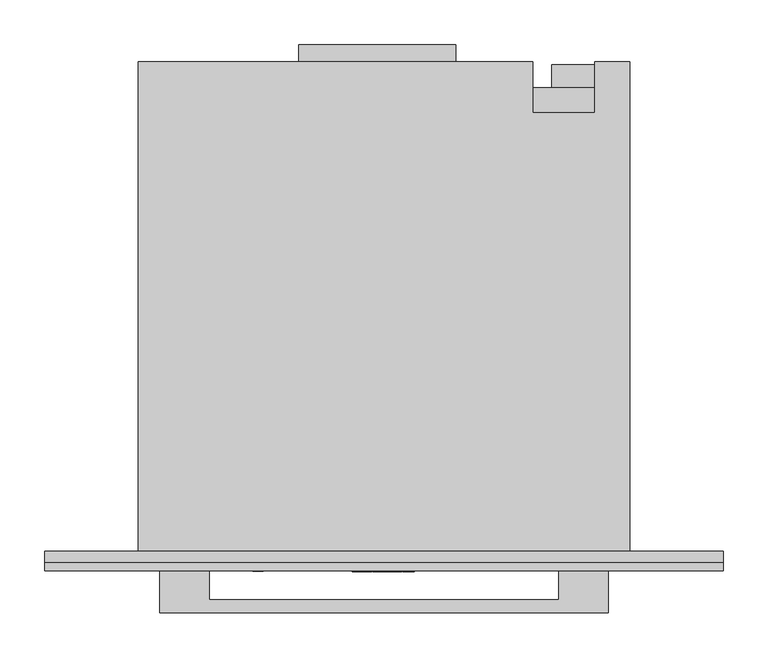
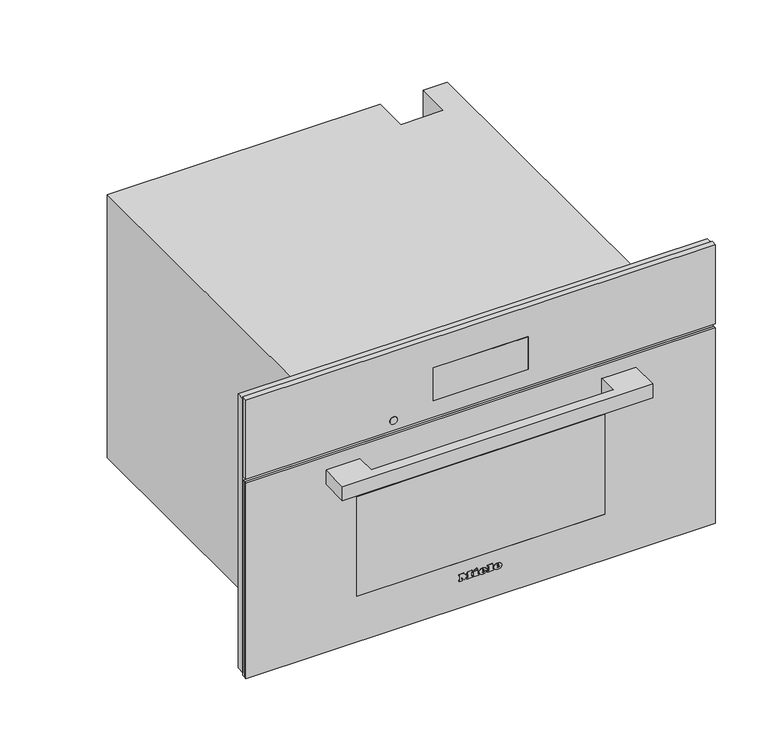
"""IFC4 building model written with IfcOpenShell, lengths in millimetres: proxy geometry, 11876190_USA_DGC7870_OBSW : 23787022_USA_11876190_DGC7870_OBSW."""

from ifc_helpers import new_model, si_unit, point, frame, frame_2d, origin, place, context, project, spatial, polyline, circle_curve, ellipse_curve, trimmed, segment, composite_curve, outline, extrude, faceted_brep, source, transform, mapped, element, save
from ifc_brep_helpers import plane_surface, cylinder_surface, revolved_surface, extruded_surface, advanced_brep


def specialty_equipment_27de7004(model_context):
    return source(origin(), model_context, "Body", "SolidModel", [
        faceted_brep([(378.5, -13.0, 476.0), (-378.5, -13.0, 476.0), (-378.5, -13.0, 9.0), (-272.5, -13.0, 9.0), (-272.5, -13.0, 344.0), (272.5, -13.0, 344.0), (272.5, -13.0, 9.0), (378.5, -13.0, 9.0), (378.5, 0.0, 476.0), (378.5, 0.0, 9.0), (-378.5, 0.0, 9.0), (-378.5, 0.0, 476.0), (231.0, 0.0, 58.0), (231.0, 0.0, 286.0), (-231.0, 0.0, 286.0), (-231.0, 0.0, 58.0), (272.5, -5.0, 9.0), (-272.5, -5.0, 9.0), (-272.5, -5.0, 344.0), (272.5, -5.0, 344.0), (231.0, -5.0, 286.0), (231.0, -5.0, 58.0), (-231.0, -5.0, 58.0), (-231.0, -5.0, 286.0)], [[[0, 1, 2, 3, 4, 5, 6, 7]], [[8, 9, 10, 11], [12, 13, 14, 15]], [[1, 0, 8, 11]], [[2, 1, 11, 10]], [[10, 9, 7, 6, 16, 17, 3, 2]], [[0, 7, 9, 8]], [[18, 19, 5, 4]], [[18, 4, 3, 17]], [[5, 19, 16, 6]], [[19, 18, 17, 16], [20, 21, 22, 23]], [[20, 13, 12, 21]], [[21, 12, 15, 22]], [[22, 15, 14, 23]], [[13, 20, 23, 14]]]),
        extrude(outline(polyline([(-95.0, 565.0), (80.0, 565.0), (80.0, 546.0), (-95.0, 546.0), (-95.0, 565.0)])), frame((0.0, 0.0, 260.0), z_axis=(0.0, 0.0, 1.0), x_axis=(1.0, 0.0, 0.0)), (0.0, 0.0, 1.0), 1.0),
        extrude(outline(polyline([(224.8383288, 537.0), (231.1236409, 537.0), (231.1236409, 526.9492425), (229.8571792, 526.9492425), (229.8571792, 535.7409796), (224.8383288, 535.7409796), (224.8383288, 537.0)])), frame((0.0, 0.0, 132.0), z_axis=(0.0, 0.0, 1.0), x_axis=(1.0, 0.0, 0.0)), (0.0, 0.0, 1.0), 1.0),
        extrude(outline(polyline([(233.0, 537.0), (240.3797826, 537.0), (240.3797826, 526.9503529), (233.15422, 526.9503529), (233.15422, 528.220938), (239.1355215, 528.220938), (239.1355215, 531.1975645), (233.4863097, 531.1975645), (233.4863097, 532.449242), (239.1355215, 532.449242), (239.1355215, 535.7448633), (233.0, 535.7448633), (233.0, 537.0)])), frame((0.0, 0.0, 132.0), z_axis=(0.0, 0.0, 1.0), x_axis=(1.0, 0.0, 0.0)), (0.0, 0.0, 1.0), 1.0),
        extrude(outline(composite_curve([segment(trimmed(circle_curve(frame_2d((233.0, 532.0)), 7.5), [point((225.5, 532.0))], [point((240.5, 532.0))], False, "CARTESIAN"), True, "CONTINUOUS"), segment(trimmed(circle_curve(frame_2d((233.0, 532.0)), 7.5), [point((240.5, 532.0))], [point((225.5, 532.0))], False, "CARTESIAN"), True, "CONTINUOUS")], self_intersect=False)), frame((0.0, 0.0, 133.0), z_axis=(0.0, 0.0, 1.0), x_axis=(1.0, 0.0, 0.0)), (0.0, 0.0, 1.0), 30.0),
        extrude(outline(polyline([(266.0, 517.0), (187.0, 517.0), (187.0, 543.0), (266.0, 543.0), (266.0, 517.0)])), frame((0.0, 0.0, 163.0), z_axis=(0.0, 0.0, 1.0), x_axis=(1.0, 0.0, 0.0)), (0.0, 0.0, 1.0), 111.0),
        faceted_brep([(-274.0, 546.0, 0.0), (-274.0, 546.0, 448.0), (166.0, 546.0, 448.0), (166.0, 546.0, 0.0), (235.0, 546.0, 448.0), (274.0, 546.0, 448.0), (274.0, 546.0, 338.0), (235.0, 546.0, 338.0), (274.0, 0.0, 448.0), (-274.0, 0.0, 448.0), (-274.0, 0.0, 0.0), (274.0, 0.0, 0.0), (231.0, 0.0, 286.0), (231.0, 0.0, 58.0), (-231.0, 0.0, 58.0), (-231.0, 0.0, 286.0), (235.0, 489.0, 448.0), (166.0, 489.0, 448.0), (166.0, 517.0, 0.0), (274.0, 517.0, 0.0), (274.0, 517.0, 338.0), (231.0, 411.0, 286.0), (-231.0, 411.0, 286.0), (-231.0, 411.0, 58.0), (231.0, 411.0, 58.0), (235.0, 489.0, 337.0), (166.0, 489.0, 337.0), (166.0, 517.0, 337.0), (235.0, 517.0, 337.0), (235.0, 517.0, 338.0)], [[[0, 1, 2, 3]], [[4, 5, 6, 7]], [[8, 9, 10, 11], [12, 13, 14, 15]], [[9, 8, 5, 4, 16, 17, 2, 1]], [[1, 0, 10, 9]], [[11, 10, 0, 3, 18, 19]], [[8, 11, 19, 20, 6, 5]], [[21, 22, 23, 24]], [[21, 24, 13, 12]], [[24, 23, 14, 13]], [[23, 22, 15, 14]], [[22, 21, 12, 15]], [[16, 25, 26, 17]], [[17, 26, 27, 18, 3, 2]], [[26, 25, 28, 27]], [[25, 16, 4, 7, 29, 28]], [[29, 20, 19, 18, 27, 28]], [[20, 29, 7, 6]]]),
        advanced_brep(
        [(26.2998, -23.0, 52.7018), (26.2998, -23.0, 53.8532), (33.9264, -23.0, 53.8532), (20.6568, -23.0, 53.8532), (23.7918, -23.0, 50.0), (33.7326, -23.0, 52.7018), (30.2898, -23.0, 52.7018), (27.5766, -23.0, 51.425), (26.2998, -23.0, 55.3124), (26.2998, -23.0, 56.555), (28.2492, -23.0, 56.555), (28.2492, -23.0, 55.3124), (26.2998, -22.0, 52.7018), (27.5766, -22.0, 51.425), (30.2898, -22.0, 52.7018), (33.7326, -22.0, 52.7018), (23.7918, -22.0, 50.0), (20.6568, -22.0, 53.8532), (33.9264, -22.0, 53.8532), (26.2998, -22.0, 53.8532), (26.2998, -22.0, 55.3124), (28.2492, -22.0, 55.3124), (28.2492, -22.0, 56.555), (26.2998, -22.0, 56.555)],
        [
            (0, 1),
            (1, 2),
            (2, 3, ellipse_curve(frame((27.2916, -23.0, 53.8532), z_axis=(0.0, -1.0, 0.0), x_axis=(-1.0, 0.0, 0.0)), 6.6348, 5.4834)),
            (3, 4, circle_curve(frame((25.0686622, -23.0, 54.2408), z_axis=(0.0, -1.0, 0.0), x_axis=(0.0, 0.0, -1.0)), 4.4288556)),
            (4, 5, circle_curve(frame((27.1587808, -23.0, 57.2504), z_axis=(0.0, -1.0, 0.0), x_axis=(0.0, 0.0, -1.0)), 7.9940516)),
            (5, 6),
            (6, 7, circle_curve(frame((28.1338588, -23.0, 53.762), z_axis=(0.0, 1.0, 0.0), x_axis=(0.0, 0.0, -1.0)), 2.4025208)),
            (7, 0, circle_curve(frame((27.5766, -23.0, 52.7018), z_axis=(0.0, 1.0, 0.0), x_axis=(0.0, 0.0, -1.0)), 1.2768)),
            (8, 9),
            (9, 10, circle_curve(frame((27.2745, -23.0, 56.555), z_axis=(0.0, 1.0, 0.0), x_axis=(0.0, 0.0, -1.0)), 0.9747)),
            (10, 11),
            (11, 8),
            (12, 13, circle_curve(frame((27.5766, -22.0, 52.7018), z_axis=(0.0, -1.0, 0.0), x_axis=(0.0, 0.0, -1.0)), 1.2768)),
            (13, 14, circle_curve(frame((28.1338588, -22.0, 53.762), z_axis=(0.0, -1.0, 0.0), x_axis=(0.0, 0.0, -1.0)), 2.4025208)),
            (14, 15),
            (15, 16, circle_curve(frame((27.1587808, -22.0, 57.2504), z_axis=(0.0, 1.0, 0.0), x_axis=(0.0, 0.0, -1.0)), 7.9940516)),
            (16, 17, circle_curve(frame((25.0686622, -22.0, 54.2408), z_axis=(0.0, 1.0, 0.0), x_axis=(0.0, 0.0, -1.0)), 4.4288556)),
            (17, 18, ellipse_curve(frame((27.2916, -22.0, 53.8532), z_axis=(0.0, 1.0, 0.0), x_axis=(-1.0, 0.0, 0.0)), 6.6348, 5.4834)),
            (18, 19),
            (19, 12),
            (20, 21),
            (21, 22),
            (22, 23, circle_curve(frame((27.2745, -22.0, 56.555), z_axis=(0.0, -1.0, 0.0), x_axis=(0.0, 0.0, -1.0)), 0.9747)),
            (23, 20),
            (0, 12),
            (19, 1),
            (18, 2),
            (5, 15),
            (14, 6),
            (17, 3),
            (13, 7),
            (16, 4),
            (8, 20),
            (23, 9),
            (22, 10),
            (21, 11),
        ],
        [
            plane_surface(frame((26.2998, -23.0, 53.8532), z_axis=(0.0, -1.0, 0.0), x_axis=(0.0, 0.0, 1.0))),
            plane_surface(frame((26.2998, -22.0, 53.8532), z_axis=(0.0, 1.0, 0.0), x_axis=(0.0, 0.0, -1.0))),
            plane_surface(frame((26.2998, -23.0, 52.7018), z_axis=(1.0, 0.0, 0.0), x_axis=(0.0, 1.0, 0.0))),
            plane_surface(frame((26.2998, -23.0, 53.8532), z_axis=(0.0, 0.0, -1.0), x_axis=(0.0, 1.0, 0.0))),
            plane_surface(frame((33.7326, -23.0, 52.7018), z_axis=(0.0, 0.0, 1.0), x_axis=(0.0, 1.0, 0.0))),
            extruded_surface(trimmed(ellipse_curve(frame((27.2916, -21.0, 53.8532), z_axis=(0.0, -1.0, 0.0), x_axis=(-1.0, 0.0, 0.0)), 6.6348, 5.4834), [point((33.9264, -21.0, 53.8532))], [point((20.6568, -21.0, 53.8532))], True, "CARTESIAN"), (0.0, -1.0, 0.0), 1.0),
            revolved_surface(polyline([(28.1338588, -22.0, 51.3594792), (28.1338588, -23.0, 51.3594792)]), (28.1338588, -22.0, 53.762), (0.0, 1.0, 0.0)),
            revolved_surface(polyline([(27.5766, -22.0, 51.425), (27.5766, -23.0, 51.425)]), (27.5766, -22.0, 52.7018), (0.0, 1.0, 0.0)),
            cylinder_surface(frame((25.0686622, -22.0, 54.2408), z_axis=(0.0, -1.0, 0.0), x_axis=(0.0, 0.0, -1.0)), 4.4288556),
            cylinder_surface(frame((27.1587808, -22.0, 57.2504), z_axis=(0.0, -1.0, 0.0), x_axis=(0.0, 0.0, -1.0)), 7.9940516),
            plane_surface(frame((26.2998, -23.0, 55.3124), z_axis=(1.0, 0.0, 0.0), x_axis=(0.0, 1.0, 0.0))),
            revolved_surface(polyline([(27.2745, -22.0, 55.5803), (27.2745, -23.0, 55.5803)]), (27.2745, -22.0, 56.555), (0.0, 1.0, 0.0)),
            plane_surface(frame((28.2492, -23.0, 56.555), z_axis=(-1.0, 0.0, 0.0), x_axis=(0.0, 1.0, 0.0))),
            plane_surface(frame((28.2492, -23.0, 55.3124), z_axis=(0.0, 0.0, 1.0), x_axis=(0.0, 1.0, 0.0))),
        ],
        [
            (0, [[1, 2, 3, 4, 5, 6, 7, 8], [9, 10, 11, 12]]),
            (1, [[13, 14, 15, 16, 17, 18, 19, 20], [21, 22, 23, 24]]),
            (2, [[-1, 25, -20, 26]]),
            (3, [[-2, -26, -19, 27]]),
            (4, [[-6, 28, -15, 29]]),
            (5, [[-3, -27, -18, 30]]),
            (6, [[-7, -29, -14, 31]]),
            (7, [[-8, -31, -13, -25]]),
            (8, [[-4, -30, -17, 32]]),
            (9, [[-5, -32, -16, -28]]),
            (10, [[-9, 33, -24, 34]]),
            (11, [[-10, -34, -23, 35]]),
            (12, [[-11, -35, -22, 36]]),
            (13, [[-12, -36, -21, -33]]),
        ],
    ),
        advanced_brep(
        [(2.508, -23.0, 52.7018), (2.508, -23.0, 53.8532), (10.1346, -23.0, 53.8532), (-3.135, -23.0, 53.8532), (0.0, -23.0, 50.0), (9.9408, -23.0, 52.7018), (6.498, -23.0, 52.7018), (3.7848, -23.0, 51.425), (2.508, -23.0, 55.3124), (2.508, -23.0, 56.555), (4.4574, -23.0, 56.555), (4.4574, -23.0, 55.3124), (2.508, -22.0, 52.7018), (3.7848, -22.0, 51.425), (6.498, -22.0, 52.7018), (9.9408, -22.0, 52.7018), (0.0, -22.0, 50.0), (-3.135, -22.0, 53.8532), (10.1346, -22.0, 53.8532), (2.508, -22.0, 53.8532), (2.508, -22.0, 55.3124), (4.4574, -22.0, 55.3124), (4.4574, -22.0, 56.555), (2.508, -22.0, 56.555)],
        [
            (0, 1),
            (1, 2),
            (2, 3, ellipse_curve(frame((3.4998, -23.0, 53.8532), z_axis=(0.0, -1.0, 0.0), x_axis=(-1.0, 0.0, 0.0)), 6.6348, 5.4834)),
            (3, 4, circle_curve(frame((1.2768622, -23.0, 54.2408), z_axis=(0.0, -1.0, 0.0), x_axis=(0.0, 0.0, -1.0)), 4.4288556)),
            (4, 5, circle_curve(frame((3.3669808, -23.0, 57.2504), z_axis=(0.0, -1.0, 0.0), x_axis=(0.0, 0.0, -1.0)), 7.9940516)),
            (5, 6),
            (6, 7, circle_curve(frame((4.3420588, -23.0, 53.762), z_axis=(0.0, 1.0, 0.0), x_axis=(0.0, 0.0, -1.0)), 2.4025208)),
            (7, 0, circle_curve(frame((3.7848, -23.0, 52.7018), z_axis=(0.0, 1.0, 0.0), x_axis=(0.0, 0.0, -1.0)), 1.2768)),
            (8, 9),
            (9, 10, circle_curve(frame((3.4827, -23.0, 56.555), z_axis=(0.0, 1.0, 0.0), x_axis=(0.0, 0.0, -1.0)), 0.9747)),
            (10, 11),
            (11, 8),
            (12, 13, circle_curve(frame((3.7848, -22.0, 52.7018), z_axis=(0.0, -1.0, 0.0), x_axis=(0.0, 0.0, -1.0)), 1.2768)),
            (13, 14, circle_curve(frame((4.3420588, -22.0, 53.762), z_axis=(0.0, -1.0, 0.0), x_axis=(0.0, 0.0, -1.0)), 2.4025208)),
            (14, 15),
            (15, 16, circle_curve(frame((3.3669808, -22.0, 57.2504), z_axis=(0.0, 1.0, 0.0), x_axis=(0.0, 0.0, -1.0)), 7.9940516)),
            (16, 17, circle_curve(frame((1.2768622, -22.0, 54.2408), z_axis=(0.0, 1.0, 0.0), x_axis=(0.0, 0.0, -1.0)), 4.4288556)),
            (17, 18, ellipse_curve(frame((3.4998, -22.0, 53.8532), z_axis=(0.0, 1.0, 0.0), x_axis=(-1.0, 0.0, 0.0)), 6.6348, 5.4834)),
            (18, 19),
            (19, 12),
            (20, 21),
            (21, 22),
            (22, 23, circle_curve(frame((3.4827, -22.0, 56.555), z_axis=(0.0, -1.0, 0.0), x_axis=(0.0, 0.0, -1.0)), 0.9747)),
            (23, 20),
            (0, 12),
            (19, 1),
            (18, 2),
            (5, 15),
            (14, 6),
            (17, 3),
            (13, 7),
            (16, 4),
            (8, 20),
            (23, 9),
            (22, 10),
            (21, 11),
        ],
        [
            plane_surface(frame((2.508, -23.0, 53.8532), z_axis=(0.0, -1.0, 0.0), x_axis=(0.0, 0.0, 1.0))),
            plane_surface(frame((2.508, -22.0, 53.8532), z_axis=(0.0, 1.0, 0.0), x_axis=(0.0, 0.0, -1.0))),
            plane_surface(frame((2.508, -23.0, 52.7018), z_axis=(1.0, 0.0, 0.0), x_axis=(0.0, 1.0, 0.0))),
            plane_surface(frame((2.508, -23.0, 53.8532), z_axis=(0.0, 0.0, -1.0), x_axis=(0.0, 1.0, 0.0))),
            plane_surface(frame((9.9408, -23.0, 52.7018), z_axis=(0.0, 0.0, 1.0), x_axis=(0.0, 1.0, 0.0))),
            extruded_surface(trimmed(ellipse_curve(frame((3.4998, -21.0, 53.8532), z_axis=(0.0, -1.0, 0.0), x_axis=(-1.0, 0.0, 0.0)), 6.6348, 5.4834), [point((10.1346, -21.0, 53.8532))], [point((-3.135, -21.0, 53.8532))], True, "CARTESIAN"), (0.0, -1.0, 0.0), 1.0),
            revolved_surface(polyline([(4.3420588, -22.0, 51.3594792), (4.3420588, -23.0, 51.3594792)]), (4.3420588, -22.0, 53.762), (0.0, 1.0, 0.0)),
            revolved_surface(polyline([(3.7848, -22.0, 51.425), (3.7848, -23.0, 51.425)]), (3.7848, -22.0, 52.7018), (0.0, 1.0, 0.0)),
            cylinder_surface(frame((1.2768622, -22.0, 54.2408), z_axis=(0.0, -1.0, 0.0), x_axis=(0.0, 0.0, -1.0)), 4.4288556),
            cylinder_surface(frame((3.3669808, -22.0, 57.2504), z_axis=(0.0, -1.0, 0.0), x_axis=(0.0, 0.0, -1.0)), 7.9940516),
            plane_surface(frame((2.508, -23.0, 55.3124), z_axis=(1.0, 0.0, 0.0), x_axis=(0.0, 1.0, 0.0))),
            revolved_surface(polyline([(3.4827, -22.0, 55.5803), (3.4827, -23.0, 55.5803)]), (3.4827, -22.0, 56.555), (0.0, 1.0, 0.0)),
            plane_surface(frame((4.4574, -23.0, 56.555), z_axis=(-1.0, 0.0, 0.0), x_axis=(0.0, 1.0, 0.0))),
            plane_surface(frame((4.4574, -23.0, 55.3124), z_axis=(0.0, 0.0, 1.0), x_axis=(0.0, 1.0, 0.0))),
        ],
        [
            (0, [[1, 2, 3, 4, 5, 6, 7, 8], [9, 10, 11, 12]]),
            (1, [[13, 14, 15, 16, 17, 18, 19, 20], [21, 22, 23, 24]]),
            (2, [[-1, 25, -20, 26]]),
            (3, [[-2, -26, -19, 27]]),
            (4, [[-6, 28, -15, 29]]),
            (5, [[-3, -27, -18, 30]]),
            (6, [[-7, -29, -14, 31]]),
            (7, [[-8, -31, -13, -25]]),
            (8, [[-4, -30, -17, 32]]),
            (9, [[-5, -32, -16, -28]]),
            (10, [[-9, 33, -24, 34]]),
            (11, [[-10, -34, -23, 35]]),
            (12, [[-11, -35, -22, 36]]),
            (13, [[-12, -36, -21, -33]]),
        ],
    ),
        extrude(outline(polyline([(60.7274, -9.9522), (58.8806, -9.0858), (60.6818, -5.2212), (62.5286, -6.0762), (60.7274, -9.9522)])), frame((0.0, -23.0, 0.0), z_axis=(0.0, 1.0, 0.0), x_axis=(0.0, 0.0, 1.0)), (0.0, 0.0, 1.0), 1.0),
        extrude(outline(polyline([(58.6298, -12.768), (56.5892, -12.768), (56.5892, -11.4114), (51.9152, -11.4114), (51.9152, -12.768), (50.0, -12.768), (50.0, -3.7734), (51.9152, -3.7734), (51.9152, -5.0958), (58.6298, -5.0958), (58.6298, -12.768)])), frame((0.0, -23.0, 0.0), z_axis=(0.0, 1.0, 0.0), x_axis=(0.0, 0.0, 1.0)), (0.0, 0.0, 1.0), 1.0),
        extrude(outline(polyline([(59.5418, 10.773), (59.5418, 12.141), (51.9152, 12.141), (51.9152, 10.773), (50.0, 10.773), (50.0, 20.0184), (51.9152, 20.0184), (51.9152, 18.6162), (61.4, 18.6162), (61.4, 10.773), (59.5418, 10.773)])), frame((0.0, -23.0, 0.0), z_axis=(0.0, 1.0, 0.0), x_axis=(0.0, 0.0, 1.0)), (0.0, 0.0, 1.0), 1.0),
        extrude(outline(polyline([(59.5418, -35.4882), (59.5418, -34.1088), (51.9152, -34.1088), (51.9152, -35.4882), (50.0, -35.4882), (50.0, -30.4722), (51.9152, -30.4722), (51.9152, -31.8402), (56.7429247, -31.8402), (50.0, -26.7444), (56.9402223, -21.6258), (51.9152, -21.6258), (51.9152, -23.028), (50.0, -23.028), (50.0, -13.9308), (51.9152, -13.9308), (51.9152, -15.3786), (59.5418, -15.3786), (59.5418, -13.9308), (61.4, -13.9308), (61.4, -20.8734), (57.125, -24.2022), (61.4, -27.5424), (61.4, -35.4882), (59.5418, -35.4882)])), frame((0.0, -23.0, 0.0), z_axis=(0.0, 1.0, 0.0), x_axis=(0.0, 0.0, 1.0)), (0.0, 0.0, 1.0), 1.0),
        extrude(outline(composite_curve([segment(trimmed(circle_curve(frame_2d((361.0, -140.5745637)), 6.0), [point((361.0, -146.5745637))], [point((361.0, -134.5745637))], False, "CARTESIAN"), True, "CONTINUOUS"), segment(trimmed(circle_curve(frame_2d((361.0, -140.5745637)), 6.0), [point((361.0, -134.5745637))], [point((361.0, -146.5745637))], False, "CARTESIAN"), True, "CONTINUOUS")], self_intersect=False)), frame((0.0, -22.5, 0.0), z_axis=(0.0, 1.0, 0.0), x_axis=(0.0, 0.0, 1.0)), (0.0, 0.0, 1.0), 1.0),
        extrude(outline(polyline([(-76.5, -21.0), (76.5, -21.0), (76.5, -22.0), (-76.5, -22.0), (-76.5, -21.0)])), frame((0.0, 0.0, 372.0), z_axis=(0.0, 0.0, 1.0), x_axis=(1.0, 0.0, 0.0)), (0.0, 0.0, 1.0), 56.0),
        faceted_brep([(378.5, -22.0, 479.0), (-378.5, -22.0, 479.0), (-378.5, -22.0, 344.0), (378.5, -22.0, 344.0), (76.5, -22.0, 428.0), (76.5, -22.0, 372.0), (-76.5, -22.0, 372.0), (-76.5, -22.0, 428.0), (378.5, -13.0, 479.0), (378.5, -13.0, 344.0), (-378.5, -13.0, 344.0), (-378.5, -13.0, 479.0), (76.5, -21.0, 428.0), (-76.5, -21.0, 428.0), (-76.5, -21.0, 372.0), (76.5, -21.0, 372.0)], [[[0, 1, 2, 3], [4, 5, 6, 7]], [[8, 9, 10, 11]], [[1, 0, 8, 11]], [[2, 1, 11, 10]], [[3, 2, 10, 9]], [[0, 3, 9, 8]], [[12, 13, 14, 15]], [[12, 15, 5, 4]], [[15, 14, 6, 5]], [[14, 13, 7, 6]], [[13, 12, 4, 7]]]),
        extrude(outline(polyline([(200.0, -22.0), (-200.0, -22.0), (-200.0, -18.0), (200.0, -18.0), (200.0, -22.0)])), frame((0.0, 0.0, 82.0), z_axis=(0.0, 0.0, 1.0), x_axis=(1.0, 0.0, 0.0)), (0.0, 0.0, 1.0), 170.0),
        extrude(outline(polyline([(337.0, 378.5), (337.0, -378.5), (4.0, -378.5), (4.0, 378.5), (337.0, 378.5)]), holes=[polyline([(252.0, -200.0), (252.0, 200.0), (82.0, 200.0), (82.0, -200.0), (252.0, -200.0)])]), frame((0.0, -22.0, 0.0), z_axis=(0.0, 1.0, 0.0), x_axis=(0.0, 0.0, 1.0)), (0.0, 0.0, 1.0), 4.0),
        extrude(outline(polyline([(-250.0, -69.0), (-250.0, -22.0), (-195.0, -22.0), (-195.0, -54.0), (195.0, -54.0), (195.0, -22.0), (250.0, -22.0), (250.0, -69.0), (-250.0, -69.0)])), frame((0.0, 0.0, 291.0), z_axis=(0.0, 0.0, 1.0), x_axis=(1.0, 0.0, 0.0)), (0.0, 0.0, 1.0), 24.0),
        extrude(outline(polyline([(378.5, -18.0), (-378.5, -18.0), (-378.5, -13.0), (378.5, -13.0), (378.5, -18.0)])), frame((0.0, 0.0, 4.0), z_axis=(0.0, 0.0, 1.0), x_axis=(1.0, 0.0, 0.0)), (0.0, 0.0, 1.0), 333.0),
    ])


if __name__ == "__main__":
    model = new_model("IFC4")
    model_context = context("Model", 3, world=origin())
    ifc_project = project(units=[si_unit("LENGTHUNIT", "METRE", prefix="MILLI")], contexts=[model_context])
    site = spatial("IfcSite", under=ifc_project)
    building = spatial("IfcBuilding", under=site)
    placement = place(None, origin())
    specialty_equipment_shape = specialty_equipment_27de7004(model_context)
    element("IfcBuildingElementProxy", 1, Name="11876190_USA_DGC7870_OBSW : 23787022_USA_11876190_DGC7870_OBSW", ObjectType="11876190_USA_DGC7870_OBSW : 23787022_USA_11876190_DGC7870_OBSW", at=placement, inside=building, context=model_context, shape_type="MappedRepresentation", body=[
        mapped(specialty_equipment_shape, transform((0.0, 0.0, 0.0), x_axis=(1.0, 0.0, 0.0), y_axis=(0.0, 1.0, 0.0), z_axis=(0.0, 0.0, 1.0))),
    ])
    save(model, "model.ifc")
